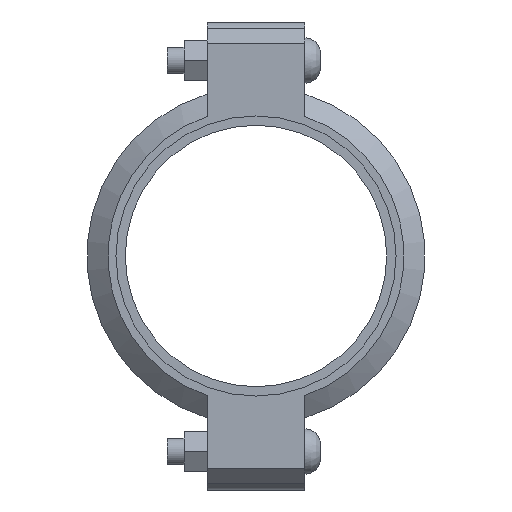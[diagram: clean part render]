
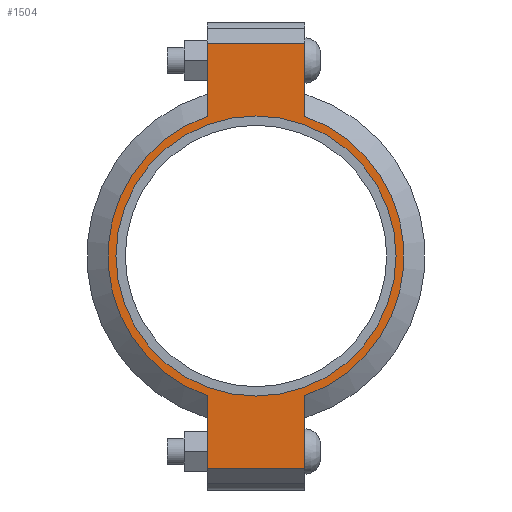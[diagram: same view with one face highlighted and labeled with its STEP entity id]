
A CAD part, left-side view. The second image highlights one B-rep face of the part: STEP entity #1504.
In plain terms, the highlighted planar face has unit normal (-1, 0, 0) as drawn and (0, 0, 1) by its records, which use the part's own axes.
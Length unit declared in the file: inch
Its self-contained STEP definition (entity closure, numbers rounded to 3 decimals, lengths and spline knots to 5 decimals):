
#184=LINE('',#2591,#275);
#192=LINE('',#2627,#283);
#199=LINE('',#2648,#290);
#208=LINE('',#2680,#299);
#209=LINE('',#2684,#300);
#210=LINE('',#2686,#301);
#275=VECTOR('',#2089,0.3937);
#283=VECTOR('',#2105,0.3937);
#290=VECTOR('',#2124,0.3937);
#299=VECTOR('',#2149,0.3937);
#300=VECTOR('',#2154,0.3937);
#301=VECTOR('',#2155,0.3937);
#353=FACE_BOUND('',#513,.T.);
#417=FACE_OUTER_BOUND('',#512,.T.);
#512=EDGE_LOOP('',(#1239,#1240,#1241,#1242,#1243,#1244,#1245,#1246));
#513=EDGE_LOOP('',(#1247));
#610=CIRCLE('',#1747,3.5);
#611=CIRCLE('',#1748,3.5);
#612=CIRCLE('',#1749,3.3125);
#715=VERTEX_POINT('',#2588);
#716=VERTEX_POINT('',#2590);
#727=VERTEX_POINT('',#2622);
#728=VERTEX_POINT('',#2626);
#735=VERTEX_POINT('',#2645);
#736=VERTEX_POINT('',#2647);
#746=VERTEX_POINT('',#2683);
#747=VERTEX_POINT('',#2685);
#748=VERTEX_POINT('',#2688);
#879=EDGE_CURVE('',#716,#715,#184,.T.);
#893=EDGE_CURVE('',#728,#727,#192,.T.);
#903=EDGE_CURVE('',#736,#735,#199,.T.);
#918=EDGE_CURVE('',#728,#715,#208,.T.);
#919=EDGE_CURVE('',#727,#736,#610,.T.);
#920=EDGE_CURVE('',#746,#735,#209,.T.);
#921=EDGE_CURVE('',#746,#747,#210,.T.);
#922=EDGE_CURVE('',#747,#716,#611,.T.);
#923=EDGE_CURVE('',#748,#748,#612,.T.);
#1239=ORIENTED_EDGE('',*,*,#918,.F.);
#1240=ORIENTED_EDGE('',*,*,#893,.T.);
#1241=ORIENTED_EDGE('',*,*,#919,.T.);
#1242=ORIENTED_EDGE('',*,*,#903,.T.);
#1243=ORIENTED_EDGE('',*,*,#920,.F.);
#1244=ORIENTED_EDGE('',*,*,#921,.T.);
#1245=ORIENTED_EDGE('',*,*,#922,.T.);
#1246=ORIENTED_EDGE('',*,*,#879,.T.);
#1247=ORIENTED_EDGE('',*,*,#923,.T.);
#1358=PLANE('',#1746);
#1504=ADVANCED_FACE('',(#417,#353),#1358,.T.);
#1746=AXIS2_PLACEMENT_3D('',#2681,#2150,#2151);
#1747=AXIS2_PLACEMENT_3D('',#2682,#2152,#2153);
#1748=AXIS2_PLACEMENT_3D('',#2687,#2156,#2157);
#1749=AXIS2_PLACEMENT_3D('',#2689,#2158,#2159);
#2089=DIRECTION('',(-1.,0.,0.));
#2105=DIRECTION('',(1.,0.,0.));
#2124=DIRECTION('',(1.,0.,0.));
#2149=DIRECTION('',(0.,1.,0.));
#2150=DIRECTION('center_axis',(0.,0.,1.));
#2151=DIRECTION('ref_axis',(1.,0.,0.));
#2152=DIRECTION('center_axis',(0.,0.,1.));
#2153=DIRECTION('ref_axis',(-1.,0.,0.));
#2154=DIRECTION('',(0.,-1.,0.));
#2155=DIRECTION('',(-1.,0.,0.));
#2156=DIRECTION('center_axis',(0.,0.,1.));
#2157=DIRECTION('ref_axis',(-1.,0.,0.));
#2158=DIRECTION('center_axis',(0.,0.,-1.));
#2159=DIRECTION('ref_axis',(-1.,0.,0.));
#2588=CARTESIAN_POINT('',(-5.035,1.156,1.065));
#2590=CARTESIAN_POINT('',(-3.30358,1.156,1.065));
#2591=CARTESIAN_POINT('',(-5.535,1.156,1.065));
#2622=CARTESIAN_POINT('',(-3.30358,-1.156,1.065));
#2626=CARTESIAN_POINT('',(-5.035,-1.156,1.065));
#2627=CARTESIAN_POINT('',(5.535,-1.156,1.065));
#2645=CARTESIAN_POINT('',(5.035,-1.156,1.065));
#2647=CARTESIAN_POINT('',(3.30358,-1.156,1.065));
#2648=CARTESIAN_POINT('',(5.535,-1.156,1.065));
#2680=CARTESIAN_POINT('',(-5.035,0.578,1.065));
#2681=CARTESIAN_POINT('Origin',(0.,0.,1.065));
#2682=CARTESIAN_POINT('Origin',(0.,0.,1.065));
#2683=CARTESIAN_POINT('',(5.035,1.156,1.065));
#2684=CARTESIAN_POINT('',(5.035,-0.578,1.065));
#2685=CARTESIAN_POINT('',(3.30358,1.156,1.065));
#2686=CARTESIAN_POINT('',(-5.535,1.156,1.065));
#2687=CARTESIAN_POINT('Origin',(0.,0.,1.065));
#2688=CARTESIAN_POINT('',(3.3125,0.,1.065));
#2689=CARTESIAN_POINT('Origin',(0.,0.,1.065));
